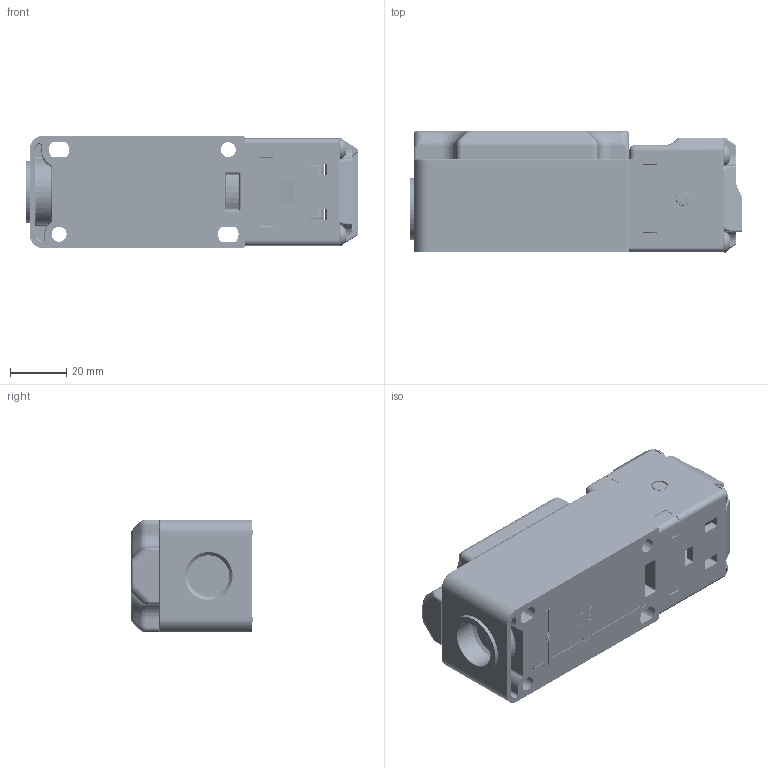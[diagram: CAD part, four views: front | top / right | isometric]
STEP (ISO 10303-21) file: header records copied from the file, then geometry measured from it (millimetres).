
FILE_DESCRIPTION (( 'STEP AP203' ), '1' );
FILE_NAME ('55504.STEP', '2012-10-18T13:45:41', ( 'Rockwell Automation' ), ( 'Rockwell Automation' ), 'SwSTEP 2.0', 'SolidWorks 2006233', '' );
FILE_SCHEMA (( 'CONFIG_CONTROL_DESIGN' ));
Products named in the file (48): 16515; 55508SIRA; 39520_3-1 LABEL; 39583_39583; 39591_assembled; 39578_39579; 36560; 39525; 09284; 70842; 70880; 55502; 55519; 47525; SEMS2; M3.5x8-2; 55504; 55501_din trojan body; 20697; M3 Washer; 55505; 39602_assembled; 39586_assembled; 39596_assembled view; 39526_39526; 11-5; M3.5x8-3; SEMS3; 39584_39522; 43503; 70855; 21526; 21533; 55506; 91524; 36600; 70840; 91526; 91527; 91525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
Assembly tree (76 placements, depth 6):
  55504
    55561  x4
    16515  x2
      M3 Washer
      20697
      16515
    0000009061
    09284  x2
    55508SIRA
      44512
      55505
    55506
      47525
      70840
      36686  x2
      91525
      55502
      91524
      91527
      36600
      70842
        70880
        70842
      91526
    36560
    39602_assembled
      39586_assembled
        39584_39522
        39596_assembled view
          39526_39526  x8
          39583_39583
          11-5  x8
            SEMS3
            M3.5x8-3
          39520_3-1 LABEL
        39591_assembled
          21533  x4
          21526  x4
          43503  x3
          39578_39579
          70855
      39525
    91528
    11524
    44512
    55519
      M3.5x8-2
      SEMS2
    55501_din trojan body
Bounding box: 117.75 x 43.2 x 40 mm (x, y, z)
Volume: 105843.9 mm3; surface area: 97545 mm2
Topology: 75 solids, 75 shells, 7776 faces, 18854 edges, 11142 vertices
Faces by surface type: plane 2588, cylinder 2258, cone 1386, torus 778, bspline 502, sphere 264
Entity records: 198653 total; most frequent: CARTESIAN_POINT 64394, DIRECTION 27185, ORIENTED_EDGE 26900, EDGE_CURVE 13450, AXIS2_PLACEMENT_3D 9920, VERTEX_POINT 8179, VECTOR 7345, LINE 7345
